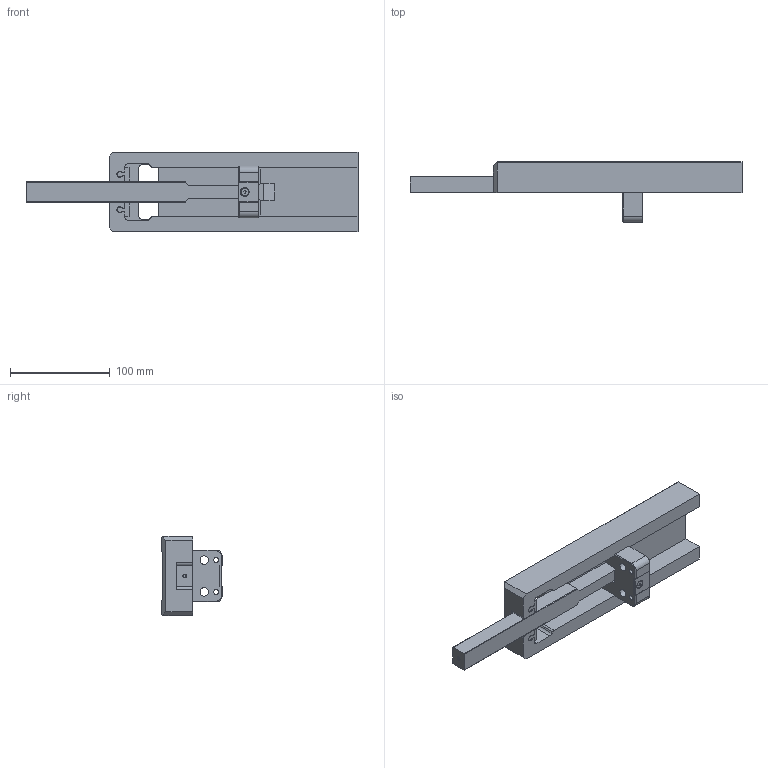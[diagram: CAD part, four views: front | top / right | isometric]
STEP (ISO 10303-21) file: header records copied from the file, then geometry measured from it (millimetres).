
FILE_DESCRIPTION (( 'STEP AP203' ), '1' );
FILE_NAME ('SA-110-250-50.step', '2015-06-16T06:01:03', ( '' ), ( '' ), 'SwSTEP 2.0', 'SolidWorks 2015', '' );
FILE_SCHEMA (( 'CONFIG_CONTROL_DESIGN' ));
Length unit declared in the file: millimetre
Products named in the file (2): SA-110-250-50
Bounding box: 333.64 x 60.6 x 80 mm (x, y, z)
Surface area: 96178.4 mm2 (no closed solid volume)
Topology: 0 solids, 9 shells, 138 faces, 487 edges, 350 vertices
Faces by surface type: plane 99, cylinder 31, cone 8
Full cylindrical faces by diameter (mm): 1.3 x2, 2.5 x1, 5 x2, 5.5 x2, 7.64 x1, 8.5 x2
Entity records: 5282 total; most frequent: CARTESIAN_POINT 995, DIRECTION 837, ORIENTED_EDGE 792, EDGE_CURVE 471, VECTOR 361, LINE 361, VERTEX_POINT 348, AXIS2_PLACEMENT_3D 238
